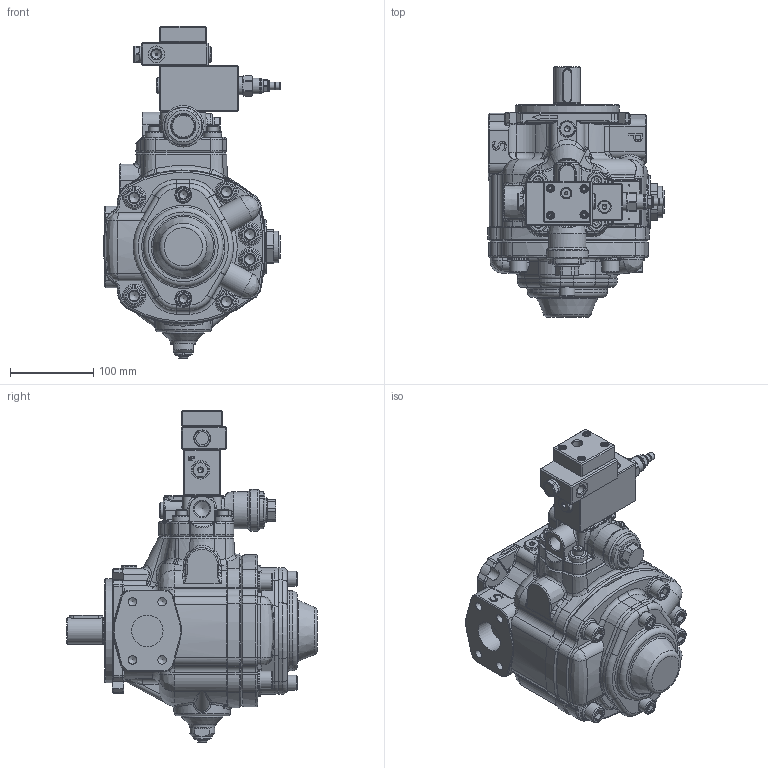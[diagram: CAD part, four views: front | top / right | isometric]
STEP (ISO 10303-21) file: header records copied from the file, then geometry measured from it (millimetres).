
FILE_DESCRIPTION(/* description */ (''),/* implementation_level */ '2;1');
FILE_NAME(/* name */ 'W:\Tecnico\Archivio\Berarma\Dimensioni Pompe\3D Export\Montaggio 3D semplificato\PLP-PHP 2\PHP 2 - A PCLS002.stp',/* time_stamp */ '2018-10-09T16:39:04+02:00',/* author */ ('marcop'),/* organization */ (''),/* preprocessor_version */ 'ST-DEVELOPER v17',/* originating_system */ 'Autodesk Inventor 2018',/* authorisation */ '');
FILE_SCHEMA (('AUTOMOTIVE_DESIGN { 1 0 10303 214 3 1 1 }'));
Products named in the file (1): PLP - PHP 2_Shrinkwrap_1
Bounding box: 212.33 x 301.5 x 399.1 mm (x, y, z)
Volume: 5271896.6 mm3; surface area: 464096 mm2
Topology: 1 solids, 1 shells, 2492 faces, 6427 edges, 4001 vertices
Faces by surface type: plane 987, cylinder 552, bspline 431, cone 257, torus 231, sphere 34
Full cylindrical faces by diameter (mm): 1.7 x4, 2.5 x3, 3 x1, 4 x5, 5 x7, 6 x3, 6.5 x1, 7.2 x13, 7.671 x2, 8 x2, 8.376 x4, 8.5 x4, 9 x4, 9.347 x2, 9.5 x1, 10 x1, 10.106 x4, 11.445 x5, 12 x4, 13 x4, 13.487 x1, 13.5 x1, 13.767 x2, 14 x3, 14.63 x1, 15.5 x2, 16 x2, 17.399 x1, 17.5 x1, 17.78 x1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
Entity records: 93826 total; most frequent: CARTESIAN_POINT 33215, ORIENTED_EDGE 12722, DIRECTION 11518, EDGE_CURVE 6361, AXIS2_PLACEMENT_3D 4469, VERTEX_POINT 4001, EDGE_LOOP 2698, LINE 2580
